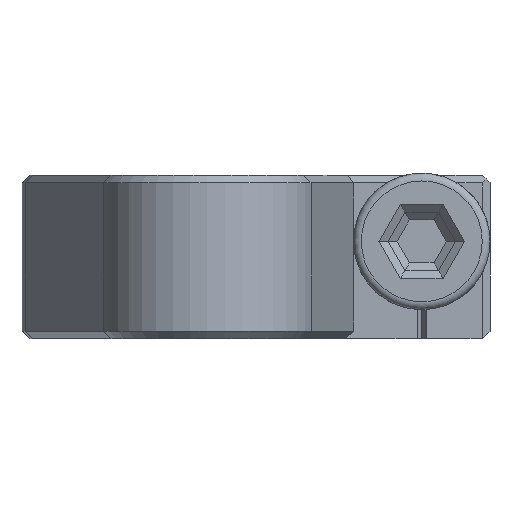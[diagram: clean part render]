
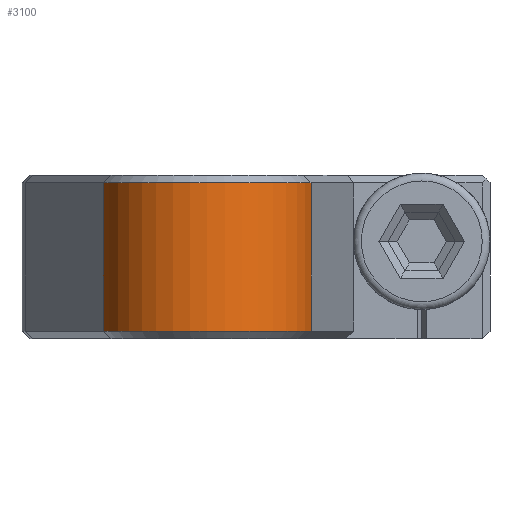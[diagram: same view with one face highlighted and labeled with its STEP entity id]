
A CAD part, left-side view. The second image highlights one B-rep face of the part: STEP entity #3100.
In plain terms, the highlighted cylindrical face has radius 5.5 mm (diameter 11 mm), a partial arc.
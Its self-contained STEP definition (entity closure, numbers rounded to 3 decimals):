
#2136 = CONICAL_SURFACE('',#2137,5.1,0.785);
#2137 = AXIS2_PLACEMENT_3D('',#2138,#2139,#2140);
#2138 = CARTESIAN_POINT('',(-16.,0.,8.4));
#2139 = DIRECTION('',(0.,0.,-1.));
#2140 = DIRECTION('',(-1.,0.,0.));
#2161 = VERTEX_POINT('',#2162);
#2162 = CARTESIAN_POINT('',(-17.382,5.323,8.));
#2188 = EDGE_CURVE('',#2189,#2161,#2191,.T.);
#2189 = VERTEX_POINT('',#2190);
#2190 = CARTESIAN_POINT('',(-17.382,-5.323,
    8.));
#2191 = SURFACE_CURVE('',#2192,(#2197,#2204),.PCURVE_S1.);
#2192 = CIRCLE('',#2193,5.5);
#2193 = AXIS2_PLACEMENT_3D('',#2194,#2195,#2196);
#2194 = CARTESIAN_POINT('',(-16.,0.,8.));
#2195 = DIRECTION('',(0.,0.,-1.));
#2196 = DIRECTION('',(-1.,0.,0.));
#2197 = PCURVE('',#2136,#2198);
#2198 = DEFINITIONAL_REPRESENTATION('',(#2199),#2203);
#2199 = LINE('',#2200,#2201);
#2200 = CARTESIAN_POINT('',(-6.283,0.4));
#2201 = VECTOR('',#2202,1.);
#2202 = DIRECTION('',(1.,0.));
#2203 = ( GEOMETRIC_REPRESENTATION_CONTEXT(2) 
PARAMETRIC_REPRESENTATION_CONTEXT() REPRESENTATION_CONTEXT('2D SPACE',''
  ) );
#2204 = PCURVE('',#2205,#2210);
#2205 = CYLINDRICAL_SURFACE('',#2206,5.5);
#2206 = AXIS2_PLACEMENT_3D('',#2207,#2208,#2209);
#2207 = CARTESIAN_POINT('',(-16.,0.,10.));
#2208 = DIRECTION('',(0.,0.,-1.));
#2209 = DIRECTION('',(-1.,0.,0.));
#2210 = DEFINITIONAL_REPRESENTATION('',(#2211),#2215);
#2211 = LINE('',#2212,#2213);
#2212 = CARTESIAN_POINT('',(0.,2.));
#2213 = VECTOR('',#2214,1.);
#2214 = DIRECTION('',(1.,0.));
#2215 = ( GEOMETRIC_REPRESENTATION_CONTEXT(2) 
PARAMETRIC_REPRESENTATION_CONTEXT() REPRESENTATION_CONTEXT('2D SPACE',''
  ) );
#3100 = ADVANCED_FACE('',(#3101),#2205,.T.);
#3101 = FACE_BOUND('',#3102,.T.);
#3102 = EDGE_LOOP('',(#3103,#3104,#3132,#3161));
#3103 = ORIENTED_EDGE('',*,*,#2188,.T.);
#3104 = ORIENTED_EDGE('',*,*,#3105,.T.);
#3105 = EDGE_CURVE('',#2161,#3106,#3108,.T.);
#3106 = VERTEX_POINT('',#3107);
#3107 = CARTESIAN_POINT('',(-17.382,5.323,0.4));
#3108 = SURFACE_CURVE('',#3109,(#3113,#3120),.PCURVE_S1.);
#3109 = LINE('',#3110,#3111);
#3110 = CARTESIAN_POINT('',(-17.382,5.323,10.));
#3111 = VECTOR('',#3112,1.);
#3112 = DIRECTION('',(0.,0.,-1.));
#3113 = PCURVE('',#2205,#3114);
#3114 = DEFINITIONAL_REPRESENTATION('',(#3115),#3119);
#3115 = LINE('',#3116,#3117);
#3116 = CARTESIAN_POINT('',(7.6,0.));
#3117 = VECTOR('',#3118,1.);
#3118 = DIRECTION('',(0.,1.));
#3119 = ( GEOMETRIC_REPRESENTATION_CONTEXT(2) 
PARAMETRIC_REPRESENTATION_CONTEXT() REPRESENTATION_CONTEXT('2D SPACE',''
  ) );
#3120 = PCURVE('',#3121,#3126);
#3121 = PLANE('',#3122);
#3122 = AXIS2_PLACEMENT_3D('',#3123,#3124,#3125);
#3123 = CARTESIAN_POINT('',(-2.393,9.216,10.));
#3124 = DIRECTION('',(0.251,-0.968,0.));
#3125 = DIRECTION('',(0.968,0.251,0.));
#3126 = DEFINITIONAL_REPRESENTATION('',(#3127),#3131);
#3127 = LINE('',#3128,#3129);
#3128 = CARTESIAN_POINT('',(-15.486,0.));
#3129 = VECTOR('',#3130,1.);
#3130 = DIRECTION('',(0.,-1.));
#3131 = ( GEOMETRIC_REPRESENTATION_CONTEXT(2) 
PARAMETRIC_REPRESENTATION_CONTEXT() REPRESENTATION_CONTEXT('2D SPACE',''
  ) );
#3132 = ORIENTED_EDGE('',*,*,#3133,.T.);
#3133 = EDGE_CURVE('',#3106,#3134,#3136,.T.);
#3134 = VERTEX_POINT('',#3135);
#3135 = CARTESIAN_POINT('',(-17.382,-5.323,0.4));
#3136 = SURFACE_CURVE('',#3137,(#3142,#3149),.PCURVE_S1.);
#3137 = CIRCLE('',#3138,5.5);
#3138 = AXIS2_PLACEMENT_3D('',#3139,#3140,#3141);
#3139 = CARTESIAN_POINT('',(-16.,0.,0.4));
#3140 = DIRECTION('',(0.,0.,1.));
#3141 = DIRECTION('',(1.,0.,-0.));
#3142 = PCURVE('',#2205,#3143);
#3143 = DEFINITIONAL_REPRESENTATION('',(#3144),#3148);
#3144 = LINE('',#3145,#3146);
#3145 = CARTESIAN_POINT('',(9.425,9.6));
#3146 = VECTOR('',#3147,1.);
#3147 = DIRECTION('',(-1.,0.));
#3148 = ( GEOMETRIC_REPRESENTATION_CONTEXT(2) 
PARAMETRIC_REPRESENTATION_CONTEXT() REPRESENTATION_CONTEXT('2D SPACE',''
  ) );
#3149 = PCURVE('',#3150,#3155);
#3150 = CONICAL_SURFACE('',#3151,5.1,0.785);
#3151 = AXIS2_PLACEMENT_3D('',#3152,#3153,#3154);
#3152 = CARTESIAN_POINT('',(-16.,0.,0.));
#3153 = DIRECTION('',(0.,0.,1.));
#3154 = DIRECTION('',(1.,0.,-0.));
#3155 = DEFINITIONAL_REPRESENTATION('',(#3156),#3160);
#3156 = LINE('',#3157,#3158);
#3157 = CARTESIAN_POINT('',(0.,0.4));
#3158 = VECTOR('',#3159,1.);
#3159 = DIRECTION('',(1.,0.));
#3160 = ( GEOMETRIC_REPRESENTATION_CONTEXT(2) 
PARAMETRIC_REPRESENTATION_CONTEXT() REPRESENTATION_CONTEXT('2D SPACE',''
  ) );
#3161 = ORIENTED_EDGE('',*,*,#3162,.F.);
#3162 = EDGE_CURVE('',#2189,#3134,#3163,.T.);
#3163 = SURFACE_CURVE('',#3164,(#3168,#3175),.PCURVE_S1.);
#3164 = LINE('',#3165,#3166);
#3165 = CARTESIAN_POINT('',(-17.382,-5.323,10.));
#3166 = VECTOR('',#3167,1.);
#3167 = DIRECTION('',(0.,0.,-1.));
#3168 = PCURVE('',#2205,#3169);
#3169 = DEFINITIONAL_REPRESENTATION('',(#3170),#3174);
#3170 = LINE('',#3171,#3172);
#3171 = CARTESIAN_POINT('',(4.966,0.));
#3172 = VECTOR('',#3173,1.);
#3173 = DIRECTION('',(0.,1.));
#3174 = ( GEOMETRIC_REPRESENTATION_CONTEXT(2) 
PARAMETRIC_REPRESENTATION_CONTEXT() REPRESENTATION_CONTEXT('2D SPACE',''
  ) );
#3175 = PCURVE('',#3176,#3181);
#3176 = PLANE('',#3177);
#3177 = AXIS2_PLACEMENT_3D('',#3178,#3179,#3180);
#3178 = CARTESIAN_POINT('',(-2.393,-9.216,10.));
#3179 = DIRECTION('',(-0.251,-0.968,0.));
#3180 = DIRECTION('',(0.968,-0.251,0.));
#3181 = DEFINITIONAL_REPRESENTATION('',(#3182),#3186);
#3182 = LINE('',#3183,#3184);
#3183 = CARTESIAN_POINT('',(-15.486,0.));
#3184 = VECTOR('',#3185,1.);
#3185 = DIRECTION('',(0.,-1.));
#3186 = ( GEOMETRIC_REPRESENTATION_CONTEXT(2) 
PARAMETRIC_REPRESENTATION_CONTEXT() REPRESENTATION_CONTEXT('2D SPACE',''
  ) );
